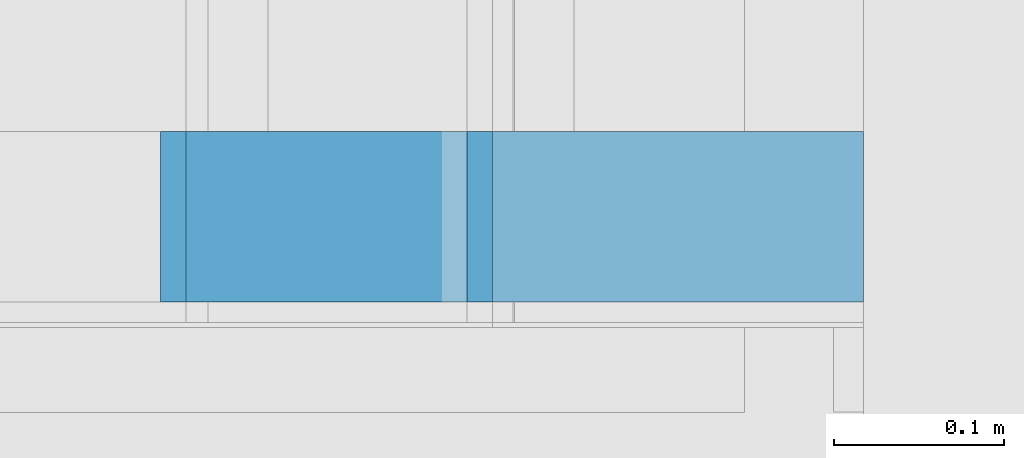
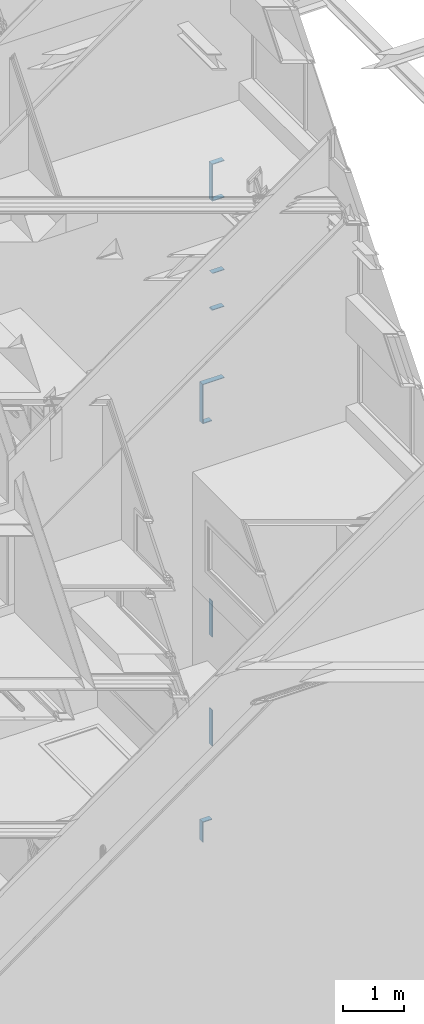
# One storey, part 234 of 583: 12 building element parts, 12 elements without a shape of their own.
"""IFC2X3 building model written with IfcOpenShell, lengths in metres."""

from ifc_helpers import new_model, entity, si_unit, converted_unit, derived_unit, money_unit, direction, frame, frame_2d, origin_with_axes, place, context, subcontext, project, spatial, polyline, rectangle, outline, extrude, material, type_object, element, aggregate, save


model = new_model("IFC2X3")

# Units and contexts
model_context = context("Model", 3, precision=1e-05, world=origin_with_axes(), true_north=direction((0.0, 1.0)))
body_context = subcontext(model_context, "Body", "Model", "MODEL_VIEW", scale=1.0)
ifc_project = project(units=[si_unit("LENGTHUNIT", "METRE"), si_unit("AREAUNIT", "SQUARE_METRE"), si_unit("VOLUMEUNIT", "CUBIC_METRE"), si_unit("ABSORBEDDOSEUNIT", "GRAY"), si_unit("AMOUNTOFSUBSTANCEUNIT", "MOLE"), si_unit("DOSEEQUIVALENTUNIT", "SIEVERT"), si_unit("ELECTRICCAPACITANCEUNIT", "FARAD"), si_unit("ELECTRICCHARGEUNIT", "COULOMB"), si_unit("ELECTRICCONDUCTANCEUNIT", "SIEMENS"), si_unit("ELECTRICCURRENTUNIT", "AMPERE"), si_unit("ELECTRICRESISTANCEUNIT", "OHM"), si_unit("ELECTRICVOLTAGEUNIT", "VOLT"), si_unit("ENERGYUNIT", "JOULE"), si_unit("FORCEUNIT", "NEWTON"), si_unit("FREQUENCYUNIT", "HERTZ"), si_unit("ILLUMINANCEUNIT", "LUX"), si_unit("INDUCTANCEUNIT", "HENRY"), si_unit("LUMINOUSFLUXUNIT", "LUMEN"), si_unit("LUMINOUSINTENSITYUNIT", "CANDELA"), si_unit("MAGNETICFLUXDENSITYUNIT", "TESLA"), si_unit("MAGNETICFLUXUNIT", "WEBER"), si_unit("MASSUNIT", "GRAM"), converted_unit("PLANEANGLEUNIT", "degree", entity("IfcReal", 0.0174532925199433), si_unit("PLANEANGLEUNIT", "RADIAN"), dimensions=[0, 0, 0, 0, 0, 0, 0]), si_unit("POWERUNIT", "WATT"), si_unit("PRESSUREUNIT", "PASCAL"), si_unit("RADIOACTIVITYUNIT", "BECQUEREL"), si_unit("SOLIDANGLEUNIT", "STERADIAN"), si_unit("THERMODYNAMICTEMPERATUREUNIT", "KELVIN"), si_unit("TIMEUNIT", "SECOND"), derived_unit("ACCELERATIONUNIT", [(si_unit("LENGTHUNIT", "METRE"), 1), (si_unit("TIMEUNIT", "SECOND"), -2)]), derived_unit("ANGULARVELOCITYUNIT", [(converted_unit("PLANEANGLEUNIT", "degree", entity("IfcReal", 0.0174532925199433), si_unit("PLANEANGLEUNIT", "RADIAN"), dimensions=[0, 0, 0, 0, 0, 0, 0]), 1), (si_unit("TIMEUNIT", "SECOND"), -1)]), derived_unit("CURVATUREUNIT", [(converted_unit("PLANEANGLEUNIT", "degree", entity("IfcReal", 0.0174532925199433), si_unit("PLANEANGLEUNIT", "RADIAN"), dimensions=[0, 0, 0, 0, 0, 0, 0]), 1), (si_unit("LENGTHUNIT", "METRE"), -1)]), derived_unit("DYNAMICVISCOSITYUNIT", [(si_unit("PRESSUREUNIT", "PASCAL"), 1), (si_unit("TIMEUNIT", "SECOND"), 1)]), derived_unit("HEATFLUXDENSITYUNIT", [(si_unit("POWERUNIT", "WATT"), 1), (si_unit("LENGTHUNIT", "METRE"), -2)]), derived_unit("HEATINGVALUEUNIT", [(si_unit("ENERGYUNIT", "JOULE"), 1), (si_unit("MASSUNIT", "GRAM"), -1)]), derived_unit("INTEGERCOUNTRATEUNIT", [(si_unit("TIMEUNIT", "SECOND"), -1)]), derived_unit("IONCONCENTRATIONUNIT", [(si_unit("MASSUNIT", "GRAM"), 1), (si_unit("VOLUMEUNIT", "CUBIC_METRE"), -1)]), derived_unit("ISOTHERMALMOISTURECAPACITYUNIT", [(si_unit("VOLUMEUNIT", "CUBIC_METRE"), 1), (si_unit("MASSUNIT", "GRAM"), -1)]), derived_unit("KINEMATICVISCOSITYUNIT", [(si_unit("AREAUNIT", "SQUARE_METRE"), 1), (si_unit("TIMEUNIT", "SECOND"), -1)]), derived_unit("LINEARFORCEUNIT", [(si_unit("FORCEUNIT", "NEWTON"), 1), (si_unit("LENGTHUNIT", "METRE"), -1)]), derived_unit("LINEARMOMENTUNIT", [(si_unit("FORCEUNIT", "NEWTON"), 1), (si_unit("LENGTHUNIT", "METRE"), -1)]), derived_unit("LINEARSTIFFNESSUNIT", [(si_unit("FORCEUNIT", "NEWTON"), 1), (si_unit("LENGTHUNIT", "METRE"), -1)]), derived_unit("LINEARVELOCITYUNIT", [(si_unit("LENGTHUNIT", "METRE"), 1), (si_unit("TIMEUNIT", "SECOND"), -1)]), derived_unit("LUMINOUSINTENSITYDISTRIBUTIONUNIT", [(si_unit("LUMINOUSINTENSITYUNIT", "CANDELA"), 1), (si_unit("LUMINOUSFLUXUNIT", "LUMEN"), -1)]), derived_unit("MASSDENSITYUNIT", [(si_unit("MASSUNIT", "GRAM"), 1), (si_unit("VOLUMEUNIT", "CUBIC_METRE"), -1)]), derived_unit("MASSFLOWRATEUNIT", [(si_unit("MASSUNIT", "GRAM"), 1), (si_unit("TIMEUNIT", "SECOND"), -1)]), derived_unit("MASSPERLENGTHUNIT", [(si_unit("MASSUNIT", "GRAM"), 1), (si_unit("LENGTHUNIT", "METRE"), -1)]), derived_unit("MODULUSOFELASTICITYUNIT", [(si_unit("FORCEUNIT", "NEWTON"), 1), (si_unit("AREAUNIT", "SQUARE_METRE"), -1)]), derived_unit("MODULUSOFLINEARSUBGRADEREACTIONUNIT", [(si_unit("FORCEUNIT", "NEWTON"), 1), (si_unit("LENGTHUNIT", "METRE"), -2)]), derived_unit("MODULUSOFROTATIONALSUBGRADEREACTIONUNIT", [(si_unit("FORCEUNIT", "NEWTON"), 1), (si_unit("LENGTHUNIT", "METRE"), 1)]), derived_unit("MODULUSOFSUBGRADEREACTIONUNIT", [(si_unit("FORCEUNIT", "NEWTON"), 1), (si_unit("VOLUMEUNIT", "CUBIC_METRE"), -1)]), derived_unit("MOISTUREDIFFUSIVITYUNIT", [(si_unit("VOLUMEUNIT", "CUBIC_METRE"), 1), (si_unit("TIMEUNIT", "SECOND"), -1)]), derived_unit("MOLECULARWEIGHTUNIT", [(si_unit("MASSUNIT", "GRAM"), 1), (si_unit("AMOUNTOFSUBSTANCEUNIT", "MOLE"), -1)]), derived_unit("PLANARFORCEUNIT", [(si_unit("FORCEUNIT", "NEWTON"), 1), (si_unit("LENGTHUNIT", "METRE"), -2)]), derived_unit("ROTATIONALFREQUENCYUNIT", [(si_unit("TIMEUNIT", "SECOND"), -1)]), derived_unit("ROTATIONALMASSUNIT", [(si_unit("MASSUNIT", "GRAM"), 1), (si_unit("LENGTHUNIT", "METRE"), 2)]), derived_unit("ROTATIONALSTIFFNESSUNIT", [(si_unit("FORCEUNIT", "NEWTON"), 1), (si_unit("LENGTHUNIT", "METRE"), 1), (converted_unit("PLANEANGLEUNIT", "degree", entity("IfcReal", 0.0174532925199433), si_unit("PLANEANGLEUNIT", "RADIAN"), dimensions=[0, 0, 0, 0, 0, 0, 0]), -1)]), derived_unit("SECTIONAREAINTEGRALUNIT", [(si_unit("LENGTHUNIT", "METRE"), 5)]), derived_unit("SECTIONMODULUSUNIT", [(si_unit("LENGTHUNIT", "METRE"), 3)]), derived_unit("SHEARMODULUSUNIT", [(si_unit("FORCEUNIT", "NEWTON"), 1), (si_unit("AREAUNIT", "SQUARE_METRE"), -1)]), derived_unit("SOUNDPOWERUNIT", [(si_unit("ENERGYUNIT", "JOULE"), 1), (si_unit("TIMEUNIT", "SECOND"), -1)]), derived_unit("SPECIFICHEATCAPACITYUNIT", [(si_unit("FORCEUNIT", "NEWTON"), 1), (si_unit("MASSUNIT", "GRAM"), -1), (si_unit("THERMODYNAMICTEMPERATUREUNIT", "KELVIN"), -1)]), derived_unit("TEMPERATUREGRADIENTUNIT", [(si_unit("THERMODYNAMICTEMPERATUREUNIT", "KELVIN"), 1), (si_unit("LENGTHUNIT", "METRE"), -1)]), derived_unit("THERMALADMITTANCEUNIT", [(si_unit("POWERUNIT", "WATT"), 1), (si_unit("AREAUNIT", "SQUARE_METRE"), -1), (si_unit("THERMODYNAMICTEMPERATUREUNIT", "KELVIN"), -1)]), derived_unit("THERMALCONDUCTANCEUNIT", [(si_unit("POWERUNIT", "WATT"), 1), (si_unit("LENGTHUNIT", "METRE"), -1), (si_unit("THERMODYNAMICTEMPERATUREUNIT", "KELVIN"), -1)]), derived_unit("THERMALEXPANSIONCOEFFICIENTUNIT", [(si_unit("THERMODYNAMICTEMPERATUREUNIT", "KELVIN"), -1)]), derived_unit("THERMALRESISTANCEUNIT", [(si_unit("AREAUNIT", "SQUARE_METRE"), 1), (si_unit("POWERUNIT", "WATT"), -1)]), derived_unit("THERMALTRANSMITTANCEUNIT", [(si_unit("POWERUNIT", "WATT"), 1), (si_unit("AREAUNIT", "SQUARE_METRE"), -1), (si_unit("THERMODYNAMICTEMPERATUREUNIT", "KELVIN"), -1)]), derived_unit("TORQUEUNIT", [(si_unit("FORCEUNIT", "NEWTON"), 1), (si_unit("LENGTHUNIT", "METRE"), 1)]), derived_unit("VAPORPERMEABILITYUNIT", [(si_unit("MASSUNIT", "GRAM"), 1), (si_unit("TIMEUNIT", "SECOND"), -1)]), derived_unit("VOLUMETRICFLOWRATEUNIT", [(si_unit("VOLUMEUNIT", "CUBIC_METRE"), 1), (si_unit("TIMEUNIT", "SECOND"), -1)]), derived_unit("WARPINGCONSTANTUNIT", [(si_unit("LENGTHUNIT", "METRE"), 6)]), derived_unit("WARPINGMOMENTUNIT", [(si_unit("FORCEUNIT", "NEWTON"), 1), (si_unit("LENGTHUNIT", "METRE"), 2)]), money_unit("GBP")], contexts=[model_context])

# Site, building, storey
site_placement = place(None, origin_with_axes())
site = spatial("IfcSite", under=ifc_project, at=site_placement, Name="Site", CompositionType="ELEMENT")
building_placement = place(site_placement, origin_with_axes())
building = spatial("IfcBuilding", under=site, at=building_placement, Name="Building01", CompositionType="ELEMENT")
storey_placement = place(building_placement, frame((0.0, 0.0, 20.78), z_axis=(0.0, 0.0, 1.0), x_axis=(1.0, 0.0, 0.0)))
storey = spatial("IfcBuildingStorey", under=building, at=storey_placement, Name="RL", CompositionType="ELEMENT", Elevation=20.78)

# Wall, building element part
wall_type = type_object("IfcWallType", Name="SHE_A-Walls_Type06d_ExternalWallInsulation_48mm", PredefinedType="NOTDEFINED")
wall_1_placement = place(storey_placement, frame((14.8, 12.13, -20.103), z_axis=(0.0, 1.0, 0.0), x_axis=(-1.0, 0.0, 0.0)))
wall_1 = element("IfcWall", 1, at=wall_1_placement, inside=storey, type_object=wall_type, Name="6D", ObjectType="SHE_A-Walls_Type06d_ExternalWallInsulation_48mm")
ifc_material = material(Name="A_BSUK_Walls_Timber")
building_element_part_1_placement = place(wall_1_placement, origin_with_axes())
building_element_part_1 = element("IfcBuildingElementPart", 2, at=building_element_part_1_placement, material=ifc_material, Name="2", context=body_context, shape_type="SweptSolid", body=[
    extrude(outline(polyline([(0.413, 0.063), (0.233, 0.063), (0.233, 0.048), (0.398, 0.048), (0.413, 0.063)])), frame((0.0, 0.0, 0.015), z_axis=(0.0, 0.0, 1.0), x_axis=(1.0, 0.0, 0.0)), (0.0, 0.0, 1.0), 0.1),
])
aggregate(wall_1, [building_element_part_1])

wall_2_placement = place(storey_placement, frame((14.45, 12.13, -20.103), z_axis=(0.0, 1.0, 0.0), x_axis=(0.0, 0.0, -1.0)))
wall_2 = element("IfcWall", 3, at=wall_2_placement, inside=storey, type_object=wall_type, Name="6D", ObjectType="SHE_A-Walls_Type06d_ExternalWallInsulation_48mm")
building_element_part_2_placement = place(wall_2_placement, origin_with_axes())
building_element_part_2 = element("IfcBuildingElementPart", 4, at=building_element_part_2_placement, material=ifc_material, Name="2", context=body_context, shape_type="SweptSolid", body=[
    extrude(outline(polyline([(0.344, 0.063), (-0.063, 0.063), (-0.048, 0.048), (0.359, 0.048), (0.344, 0.063)])), frame((0.0, 0.0, 0.015), z_axis=(0.0, 0.0, 1.0), x_axis=(1.0, 0.0, 0.0)), (0.0, 0.0, 1.0), 0.1),
])
aggregate(wall_2, [building_element_part_2])

wall_3_placement = place(storey_placement, frame((14.63, 12.13, -17.913), z_axis=(0.0, 1.0, 0.0), x_axis=(0.0, 0.0, -1.0)))
wall_3 = element("IfcWall", 5, at=wall_3_placement, inside=storey, type_object=wall_type, Name="6D", ObjectType="SHE_A-Walls_Type06d_ExternalWallInsulation_48mm")
building_element_part_3_placement = place(wall_3_placement, origin_with_axes())
building_element_part_3 = element("IfcBuildingElementPart", 6, at=building_element_part_3_placement, material=ifc_material, Name="2", context=body_context, shape_type="SweptSolid", body=[
    extrude(rectangle(XDim=0.72, YDim=0.015, at=frame_2d((0.312, 0.0555), x_axis=(1.0, 0.0))), frame((0.0, 0.0, 0.015), z_axis=(0.0, 0.0, 1.0), x_axis=(1.0, 0.0, 0.0)), (0.0, 0.0, 1.0), 0.1),
])
aggregate(wall_3, [building_element_part_3])

wall_4_placement = place(storey_placement, frame((14.63, 12.13, -15.723), z_axis=(0.0, 1.0, 0.0), x_axis=(0.0, 0.0, -1.0)))
wall_4 = element("IfcWall", 7, at=wall_4_placement, inside=storey, type_object=wall_type, Name="6D", ObjectType="SHE_A-Walls_Type06d_ExternalWallInsulation_48mm")
building_element_part_4_placement = place(wall_4_placement, origin_with_axes())
building_element_part_4 = element("IfcBuildingElementPart", 8, at=building_element_part_4_placement, material=ifc_material, Name="2", context=body_context, shape_type="SweptSolid", body=[
    extrude(rectangle(XDim=0.72, YDim=0.015, at=frame_2d((0.312, 0.0555), x_axis=(1.0, 0.0))), frame((0.0, 0.0, 0.015), z_axis=(0.0, 0.0, 1.0), x_axis=(1.0, 0.0, 0.0)), (0.0, 0.0, 1.0), 0.1),
])
aggregate(wall_4, [building_element_part_4])

wall_5_placement = place(storey_placement, frame((14.8, 12.13, -11.32), z_axis=(0.0, 1.0, 0.0), x_axis=(-1.0, 0.0, 0.0)))
wall_5 = element("IfcWall", 9, at=wall_5_placement, inside=storey, type_object=wall_type, Name="6D", ObjectType="SHE_A-Walls_Type06d_ExternalWallInsulation_48mm")
building_element_part_5_placement = place(wall_5_placement, origin_with_axes())
building_element_part_5 = element("IfcBuildingElementPart", 10, at=building_element_part_5_placement, material=ifc_material, Name="2", context=body_context, shape_type="SweptSolid", body=[
    extrude(outline(polyline([(0.413, 0.063), (0.0, 0.063), (0.0, 0.048), (0.398, 0.048), (0.413, 0.063)])), frame((0.0, 0.0, 0.015), z_axis=(0.0, 0.0, 1.0), x_axis=(1.0, 0.0, 0.0)), (0.0, 0.0, 1.0), 0.1),
])
aggregate(wall_5, [building_element_part_5])

wall_6_placement = place(storey_placement, frame((14.45, 12.13, -11.32), z_axis=(0.0, 1.0, 0.0), x_axis=(0.0, 0.0, -1.0)))
wall_6 = element("IfcWall", 11, at=wall_6_placement, inside=storey, type_object=wall_type, Name="6D", ObjectType="SHE_A-Walls_Type06d_ExternalWallInsulation_48mm")
building_element_part_6_placement = place(wall_6_placement, origin_with_axes())
building_element_part_6 = element("IfcBuildingElementPart", 12, at=building_element_part_6_placement, material=ifc_material, Name="2", context=body_context, shape_type="SweptSolid", body=[
    extrude(outline(polyline([(0.733, 0.063), (-0.063, 0.063), (-0.048, 0.048), (0.718, 0.048), (0.733, 0.063)])), frame((0.0, 0.0, 0.015), z_axis=(0.0, 0.0, 1.0), x_axis=(1.0, 0.0, 0.0)), (0.0, 0.0, 1.0), 0.1),
])
aggregate(wall_6, [building_element_part_6])

wall_7_placement = place(storey_placement, frame((14.45, 12.13, -11.99), z_axis=(0.0, 1.0, 0.0), x_axis=(1.0, 0.0, 0.0)))
wall_7 = element("IfcWall", 13, at=wall_7_placement, inside=storey, type_object=wall_type, Name="6D", ObjectType="SHE_A-Walls_Type06d_ExternalWallInsulation_48mm")
building_element_part_7_placement = place(wall_7_placement, origin_with_axes())
building_element_part_7 = element("IfcBuildingElementPart", 14, at=building_element_part_7_placement, material=ifc_material, Name="2", context=body_context, shape_type="SweptSolid", body=[
    extrude(outline(polyline([(-0.063, 0.063), (-0.048, 0.048), (0.117, 0.048), (0.117, 0.063), (-0.063, 0.063)])), frame((0.0, 0.0, 0.015), z_axis=(0.0, 0.0, 1.0), x_axis=(1.0, 0.0, 0.0)), (0.0, 0.0, 1.0), 0.1),
])
aggregate(wall_7, [building_element_part_7])

wall_8_placement = place(storey_placement, frame((14.8, 12.13, -9.153), z_axis=(0.0, 1.0, 0.0), x_axis=(-1.0, 0.0, 0.0)))
wall_8 = element("IfcWall", 15, at=wall_8_placement, inside=storey, type_object=wall_type, Name="6D", ObjectType="SHE_A-Walls_Type06d_ExternalWallInsulation_48mm")
building_element_part_8_placement = place(wall_8_placement, origin_with_axes())
building_element_part_8 = element("IfcBuildingElementPart", 16, at=building_element_part_8_placement, material=ifc_material, Name="2", context=body_context, shape_type="SweptSolid", body=[
    extrude(outline(polyline([(0.233, 0.063), (0.0, 0.063), (0.0, 0.048), (0.218, 0.048), (0.233, 0.063)])), frame((0.0, 0.0, 0.015), z_axis=(0.0, 0.0, 1.0), x_axis=(1.0, 0.0, 0.0)), (0.0, 0.0, 1.0), 0.1),
])
aggregate(wall_8, [building_element_part_8])

wall_9_placement = place(storey_placement, frame((14.63, 12.13, -9.777), z_axis=(0.0, 1.0, 0.0), x_axis=(1.0, 0.0, 0.0)))
wall_9 = element("IfcWall", 17, at=wall_9_placement, inside=storey, type_object=wall_type, Name="6D", ObjectType="SHE_A-Walls_Type06d_ExternalWallInsulation_48mm")
building_element_part_9_placement = place(wall_9_placement, origin_with_axes())
building_element_part_9 = element("IfcBuildingElementPart", 18, at=building_element_part_9_placement, material=ifc_material, Name="2", context=body_context, shape_type="SweptSolid", body=[
    extrude(outline(polyline([(-0.063, 0.063), (-0.048, 0.048), (0.17, 0.048), (0.17, 0.063), (-0.063, 0.063)])), frame((0.0, 0.0, 0.015), z_axis=(0.0, 0.0, 1.0), x_axis=(1.0, 0.0, 0.0)), (0.0, 0.0, 1.0), 0.1),
])
aggregate(wall_9, [building_element_part_9])

wall_10_placement = place(storey_placement, frame((14.8, 12.13, -6.963), z_axis=(0.0, 1.0, 0.0), x_axis=(-1.0, 0.0, 0.0)))
wall_10 = element("IfcWall", 19, at=wall_10_placement, inside=storey, type_object=wall_type, Name="6D", ObjectType="SHE_A-Walls_Type06d_ExternalWallInsulation_48mm")
building_element_part_10_placement = place(wall_10_placement, origin_with_axes())
building_element_part_10 = element("IfcBuildingElementPart", 20, at=building_element_part_10_placement, material=ifc_material, Name="2", context=body_context, shape_type="SweptSolid", body=[
    extrude(outline(polyline([(0.233, 0.063), (0.0, 0.063), (0.0, 0.048), (0.218, 0.048), (0.233, 0.063)])), frame((0.0, 0.0, 0.015), z_axis=(0.0, 0.0, 1.0), x_axis=(1.0, 0.0, 0.0)), (0.0, 0.0, 1.0), 0.1),
])
aggregate(wall_10, [building_element_part_10])

wall_11_placement = place(storey_placement, frame((14.63, 12.13, -6.963), z_axis=(0.0, 1.0, 0.0), x_axis=(0.0, 0.0, -1.0)))
wall_11 = element("IfcWall", 21, at=wall_11_placement, inside=storey, type_object=wall_type, Name="6D", ObjectType="SHE_A-Walls_Type06d_ExternalWallInsulation_48mm")
building_element_part_11_placement = place(wall_11_placement, origin_with_axes())
building_element_part_11 = element("IfcBuildingElementPart", 22, at=building_element_part_11_placement, material=ifc_material, Name="2", context=body_context, shape_type="SweptSolid", body=[
    extrude(outline(polyline([(0.687, 0.063), (-0.063, 0.063), (-0.048, 0.048), (0.672, 0.048), (0.687, 0.063)])), frame((0.0, 0.0, 0.015), z_axis=(0.0, 0.0, 1.0), x_axis=(1.0, 0.0, 0.0)), (0.0, 0.0, 1.0), 0.1),
])
aggregate(wall_11, [building_element_part_11])

wall_12_placement = place(storey_placement, frame((14.63, 12.13, -7.587), z_axis=(0.0, 1.0, 0.0), x_axis=(1.0, 0.0, 0.0)))
wall_12 = element("IfcWall", 23, at=wall_12_placement, inside=storey, type_object=wall_type, Name="6D", ObjectType="SHE_A-Walls_Type06d_ExternalWallInsulation_48mm")
building_element_part_12_placement = place(wall_12_placement, origin_with_axes())
building_element_part_12 = element("IfcBuildingElementPart", 24, at=building_element_part_12_placement, material=ifc_material, Name="2", context=body_context, shape_type="SweptSolid", body=[
    extrude(outline(polyline([(-0.063, 0.063), (-0.048, 0.048), (0.17, 0.048), (0.17, 0.063), (-0.063, 0.063)])), frame((0.0, 0.0, 0.015), z_axis=(0.0, 0.0, 1.0), x_axis=(1.0, 0.0, 0.0)), (0.0, 0.0, 1.0), 0.1),
])
aggregate(wall_12, [building_element_part_12])

save(model, "model.ifc")
